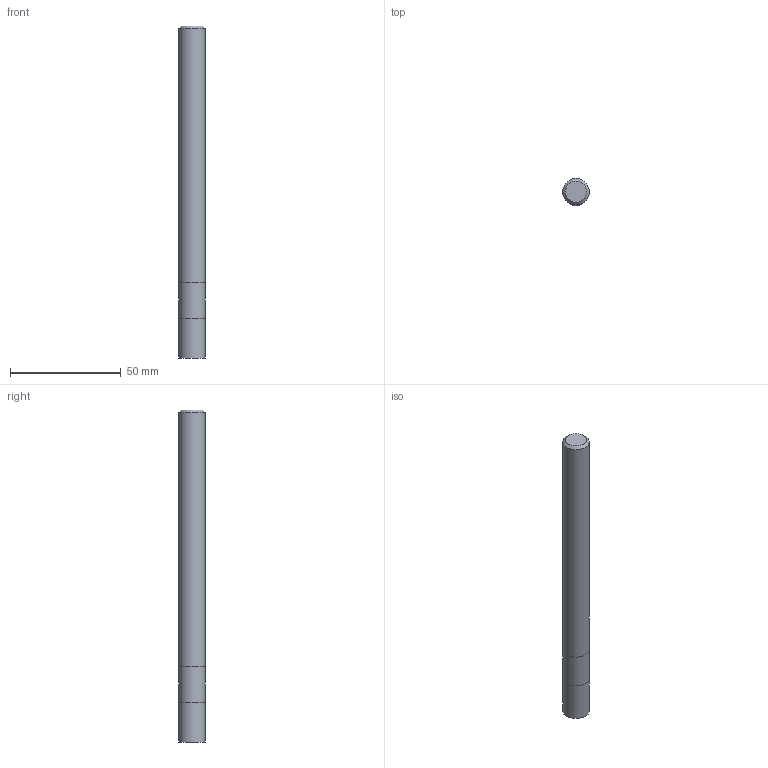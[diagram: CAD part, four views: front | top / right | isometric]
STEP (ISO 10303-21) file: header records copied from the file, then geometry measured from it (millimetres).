
FILE_DESCRIPTION((''),'2;1');
FILE_NAME('C:\Users\nsx150\AppData\Local\Temp\Mastercam 2021\EUJSUNXURU\TEMP.step','2021-04-22T10:30:28',(''),(''),'STEP Write','Mastercam 2021 ... CNC Software, Inc.','');
FILE_SCHEMA(('AUTOMOTIVE_DESIGN'));
Length unit declared in the file: millimetre
Products named in the file (1): None
Bounding box: 12 x 12 x 150 mm (x, y, z)
Volume: 16939.3 mm3; surface area: 6078.9 mm2
Topology: 2 solids, 2 shells, 8 faces, 10 edges, 6 vertices
Faces by surface type: plane 4, cylinder 3, cone 1
Full cylindrical faces by diameter (mm): 12 x3
Entity records: 190 total; most frequent: DIRECTION 32, CARTESIAN_POINT 22, AXIS2_PLACEMENT_3D 16, ORIENTED_EDGE 12, EDGE_LOOP 12, STYLED_ITEM 11, ADVANCED_FACE 8, FACE_BOUND 7
